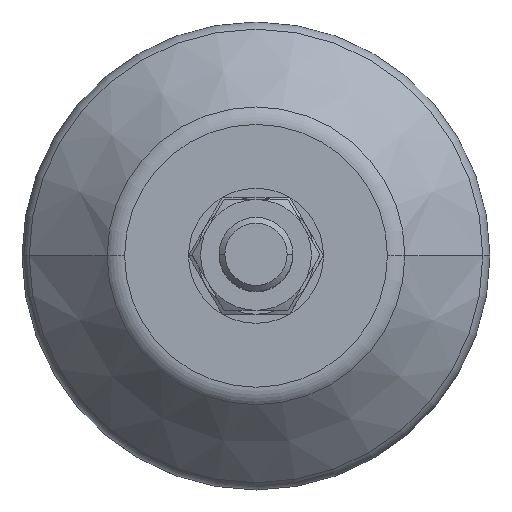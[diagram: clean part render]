
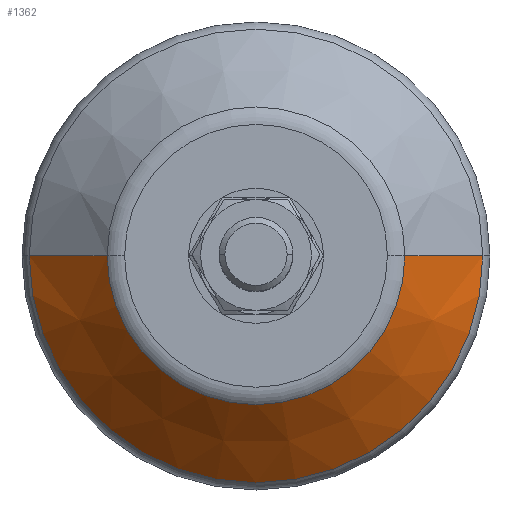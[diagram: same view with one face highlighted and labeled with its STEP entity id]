
A CAD part, top view. The second image highlights one B-rep face of the part: STEP entity #1362.
In plain terms, the highlighted conical face has half-angle 45 degrees and reference radius 30.5 mm.
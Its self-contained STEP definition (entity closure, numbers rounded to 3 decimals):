
#14 = VECTOR ( 'NONE', #921, 1000. ) ;
#168 = CARTESIAN_POINT ( 'NONE',  ( -36.828, 0., 6.172 ) ) ;
#223 = DIRECTION ( 'NONE',  ( -1., 0., 0. ) ) ;
#265 = AXIS2_PLACEMENT_3D ( 'NONE', #330, #1047, #223 ) ;
#289 = EDGE_LOOP ( 'NONE', ( #1315, #667, #1969, #2249 ) ) ;
#330 = CARTESIAN_POINT ( 'NONE',  ( 0., 0., 6.172 ) ) ;
#336 = CARTESIAN_POINT ( 'NONE',  ( 0., 0., 12.5 ) ) ;
#394 = CARTESIAN_POINT ( 'NONE',  ( -24.172, 0., 18.828 ) ) ;
#396 = CARTESIAN_POINT ( 'NONE',  ( 24.172, 0., 18.828 ) ) ;
#512 = EDGE_CURVE ( 'NONE', #946, #781, #1678, .T. ) ;
#637 = CARTESIAN_POINT ( 'NONE',  ( 30.5, 0., 12.5 ) ) ;
#667 = ORIENTED_EDGE ( 'NONE', *, *, #1653, .T. ) ;
#781 = VERTEX_POINT ( 'NONE', #168 ) ;
#812 = DIRECTION ( 'NONE',  ( 0., 0., -1. ) ) ;
#898 = EDGE_CURVE ( 'NONE', #1965, #781, #1446, .T. ) ;
#921 = DIRECTION ( 'NONE',  ( -0.707, 0., -0.707 ) ) ;
#936 = DIRECTION ( 'NONE',  ( 0., 0., -1. ) ) ;
#946 = VERTEX_POINT ( 'NONE', #394 ) ;
#1047 = DIRECTION ( 'NONE',  ( 0., 0., -1. ) ) ;
#1174 = VECTOR ( 'NONE', #2102, 1000. ) ;
#1176 = EDGE_CURVE ( 'NONE', #2307, #1965, #2269, .T. ) ;
#1237 = FACE_OUTER_BOUND ( 'NONE', #289, .T. ) ;
#1315 = ORIENTED_EDGE ( 'NONE', *, *, #1176, .F. ) ;
#1362 = ADVANCED_FACE ( 'NONE', ( #1237 ), #1760, .T. ) ;
#1388 = CARTESIAN_POINT ( 'NONE',  ( 36.828, 0., 6.172 ) ) ;
#1446 = CIRCLE ( 'NONE', #265, 36.828 ) ;
#1507 = CARTESIAN_POINT ( 'NONE',  ( -30.5, 0., 12.5 ) ) ;
#1552 = DIRECTION ( 'NONE',  ( -1., 0., 0. ) ) ;
#1608 = AXIS2_PLACEMENT_3D ( 'NONE', #336, #936, #2027 ) ;
#1653 = EDGE_CURVE ( 'NONE', #2307, #946, #2213, .T. ) ;
#1678 = LINE ( 'NONE', #1507, #14 ) ;
#1760 = CONICAL_SURFACE ( 'NONE', #1608, 30.5, 0.785 ) ;
#1907 = CARTESIAN_POINT ( 'NONE',  ( 0., 0., 18.828 ) ) ;
#1965 = VERTEX_POINT ( 'NONE', #1388 ) ;
#1969 = ORIENTED_EDGE ( 'NONE', *, *, #512, .T. ) ;
#2027 = DIRECTION ( 'NONE',  ( -1., 0., 0. ) ) ;
#2102 = DIRECTION ( 'NONE',  ( 0.707, 0., -0.707 ) ) ;
#2213 = CIRCLE ( 'NONE', #2334, 24.172 ) ;
#2249 = ORIENTED_EDGE ( 'NONE', *, *, #898, .F. ) ;
#2269 = LINE ( 'NONE', #637, #1174 ) ;
#2307 = VERTEX_POINT ( 'NONE', #396 ) ;
#2334 = AXIS2_PLACEMENT_3D ( 'NONE', #1907, #812, #1552 ) ;
